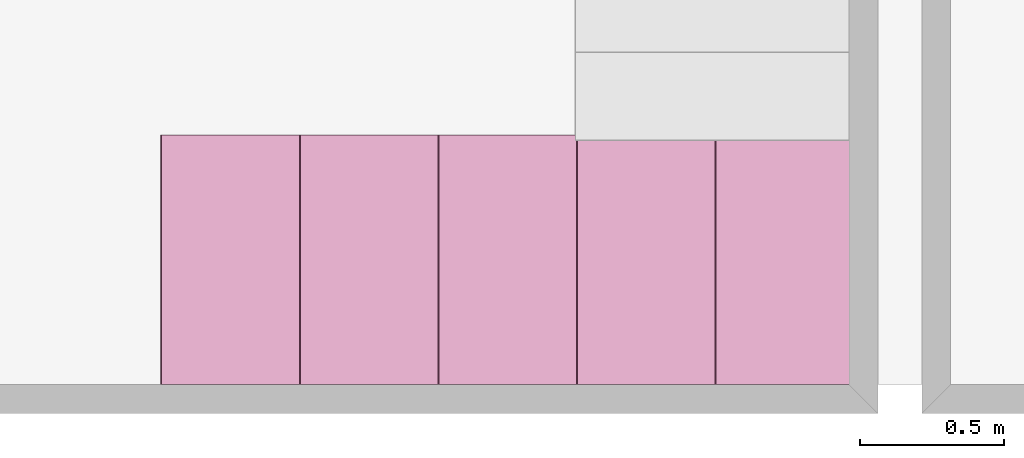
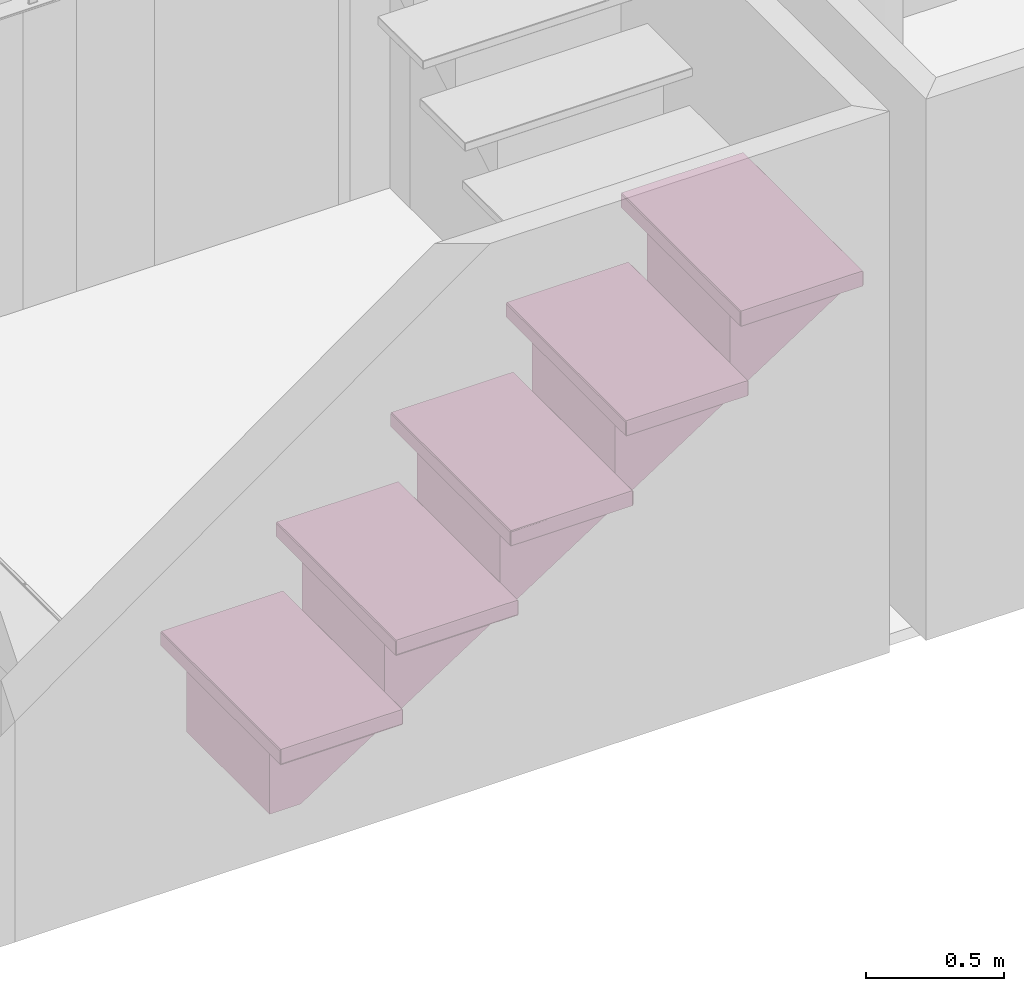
# One storey, part 3 of 9: 1 furnishing.
"""IFC2X3 building model written with IfcOpenShell, lengths in metres."""

from ifc_helpers import new_model, si_unit, frame, origin_with_axes, place, context, project, spatial, faceted_brep, type_object, element, save


model = new_model("IFC2X3")

# Units and contexts
model_context = context("Model", 3, precision=1e-05, world=origin_with_axes())
ifc_project = project(units=[si_unit("AREAUNIT", "SQUARE_METRE"), si_unit("LENGTHUNIT", "METRE")], contexts=[model_context])

# Site, building, storey, space
site_placement = place(None, origin_with_axes())
site = spatial("IfcSite", under=ifc_project, at=site_placement, Name="Site", CompositionType="ELEMENT")
building_placement = place(site_placement, origin_with_axes())
building = spatial("IfcBuilding", under=site, at=building_placement, Name="Building", CompositionType="ELEMENT")
storey_placement = place(building_placement, frame((0.0, 0.0, 0.0500004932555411), z_axis=(0.0, 0.0, 1.0), x_axis=(1.0, 0.0, 0.0)))
storey = spatial("IfcBuildingStorey", under=building, at=storey_placement, Name="Story 0", CompositionType="ELEMENT", Elevation=0.0499999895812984)
space_placement = place(storey_placement, frame((-2.12390536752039, -1.01893616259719, 0.0), z_axis=(0.0, 0.0, 1.0), x_axis=(1.0, 0.0, 0.0)))
space = spatial("IfcSpace", under=storey, at=space_placement, Name="005", CompositionType="ELEMENT", InteriorOrExteriorSpace="INTERNAL")

# Furnishing
furniture_type = type_object("IfcFurnitureType", Name="588ed74f-7506-4662-80ca-00d1935022b0")
furnishing_placement = place(space_placement, frame((-1.16721611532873, -2.90381907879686, 0.820211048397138), z_axis=(0.0, 0.0, 1.00000000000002), x_axis=(-1.00000000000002, 0.0, 0.0)))
element("IfcFurnishingElement", 1, at=furnishing_placement, inside=space, type_object=furniture_type, Name="STAIRS", ObjectType="STAIRS", context=model_context, shape_type="Brep", body=[
    faceted_brep([(1.2172, 0.4313, -0.4459), (1.2172, -0.4313, -0.4459), (1.2172, 0.4313, -0.504), (1.2172, -0.4313, -0.504), (1.2172, 0.4313, -0.504), (1.2172, -0.4313, -0.4459), (1.2138, -0.4329, -0.4459), (0.7064, -0.4329, -0.4459), (1.2138, -0.4329, -0.504), (0.7064, -0.4329, -0.504), (1.2138, -0.4329, -0.504), (0.7064, -0.4329, -0.4459), (0.7029, -0.4313, -0.4459), (0.7029, 0.4313, -0.4459), (0.7029, -0.4313, -0.504), (0.7029, 0.4313, -0.504), (0.7029, -0.4313, -0.504), (0.7029, 0.4313, -0.4459), (0.7064, 0.4329, -0.4459), (1.2138, 0.4329, -0.4459), (0.7064, 0.4329, -0.504), (1.2138, 0.4329, -0.504), (0.7064, 0.4329, -0.504), (1.2138, 0.4329, -0.4459), (1.2138, -0.4313, -0.5084), (0.7064, -0.4313, -0.5084), (1.2138, 0.4313, -0.5084), (0.7064, 0.4313, -0.5084), (1.2138, 0.4313, -0.5084), (0.7064, -0.4313, -0.5084), (1.2138, -0.4313, -0.4414), (1.2138, 0.4313, -0.4414), (0.7064, -0.4313, -0.4414), (0.7064, 0.4313, -0.4414), (0.7064, -0.4313, -0.4414), (1.2138, 0.4313, -0.4414), (1.2138, 0.4329, -0.504), (1.2172, 0.4313, -0.504), (1.2138, 0.4313, -0.5084), (1.2138, -0.4329, -0.504), (1.2138, -0.4313, -0.5084), (1.2172, -0.4313, -0.504), (0.7029, -0.4313, -0.504), (0.7064, -0.4313, -0.5084), (0.7064, -0.4329, -0.504), (0.7029, 0.4313, -0.504), (0.7064, 0.4329, -0.504), (0.7064, 0.4313, -0.5084), (1.2138, 0.4313, -0.4414), (1.2172, 0.4313, -0.4459), (1.2138, 0.4329, -0.4459), (1.2138, -0.4313, -0.4414), (1.2138, -0.4329, -0.4459), (1.2172, -0.4313, -0.4459), (0.7064, -0.4313, -0.4414), (0.7029, -0.4313, -0.4459), (0.7064, -0.4329, -0.4459), (0.7064, 0.4313, -0.4414), (0.7064, 0.4329, -0.4459), (0.7029, 0.4313, -0.4459), (1.2138, 0.4313, -0.5084), (1.2172, 0.4313, -0.504), (1.2138, -0.4313, -0.5084), (1.2172, -0.4313, -0.504), (1.2138, -0.4313, -0.5084), (1.2172, 0.4313, -0.504), (1.2138, -0.4329, -0.504), (1.2172, -0.4313, -0.504), (1.2138, -0.4329, -0.4459), (1.2172, -0.4313, -0.4459), (1.2138, -0.4329, -0.4459), (1.2172, -0.4313, -0.504), (1.2138, -0.4313, -0.4414), (1.2172, -0.4313, -0.4459), (1.2138, 0.4313, -0.4414), (1.2172, 0.4313, -0.4459), (1.2138, 0.4313, -0.4414), (1.2172, -0.4313, -0.4459), (1.2138, 0.4329, -0.4459), (1.2172, 0.4313, -0.4459), (1.2138, 0.4329, -0.504), (1.2172, 0.4313, -0.504), (1.2138, 0.4329, -0.504), (1.2172, 0.4313, -0.4459), (1.2138, -0.4313, -0.5084), (1.2138, -0.4329, -0.504), (0.7064, -0.4313, -0.5084), (0.7064, -0.4329, -0.504), (0.7064, -0.4313, -0.5084), (1.2138, -0.4329, -0.504), (0.7029, -0.4313, -0.504), (0.7064, -0.4329, -0.504), (0.7029, -0.4313, -0.4459), (0.7064, -0.4329, -0.4459), (0.7029, -0.4313, -0.4459), (0.7064, -0.4329, -0.504), (0.7064, -0.4313, -0.4414), (0.7064, -0.4329, -0.4459), (1.2138, -0.4313, -0.4414), (1.2138, -0.4329, -0.4459), (1.2138, -0.4313, -0.4414), (0.7064, -0.4329, -0.4459), (0.7064, -0.4313, -0.5084), (0.7029, -0.4313, -0.504), (0.7064, 0.4313, -0.5084), (0.7029, 0.4313, -0.504), (0.7064, 0.4313, -0.5084), (0.7029, -0.4313, -0.504), (0.7064, 0.4329, -0.504), (0.7029, 0.4313, -0.504), (0.7064, 0.4329, -0.4459), (0.7029, 0.4313, -0.4459), (0.7064, 0.4329, -0.4459), (0.7029, 0.4313, -0.504), (0.7064, 0.4313, -0.4414), (0.7029, 0.4313, -0.4459), (0.7064, -0.4313, -0.4414), (0.7029, -0.4313, -0.4459), (0.7064, -0.4313, -0.4414), (0.7029, 0.4313, -0.4459), (0.7064, 0.4313, -0.5084), (0.7064, 0.4329, -0.504), (1.2138, 0.4313, -0.5084), (1.2138, 0.4329, -0.504), (1.2138, 0.4313, -0.5084), (0.7064, 0.4329, -0.504), (1.2138, 0.4313, -0.4414), (1.2138, 0.4329, -0.4459), (0.7064, 0.4313, -0.4414), (0.7064, 0.4329, -0.4459), (0.7064, 0.4313, -0.4414), (1.2138, 0.4329, -0.4459), (0.7359, 0.4313, -0.1323), (0.7359, -0.4313, -0.1323), (0.7359, 0.4313, -0.1904), (0.7359, -0.4313, -0.1904), (0.7359, 0.4313, -0.1904), (0.7359, -0.4313, -0.1323), (0.7325, -0.4329, -0.1323), (0.2251, -0.4329, -0.1323), (0.7325, -0.4329, -0.1904), (0.2251, -0.4329, -0.1904), (0.7325, -0.4329, -0.1904), (0.2251, -0.4329, -0.1323), (0.2217, -0.4313, -0.1323), (0.2217, 0.4313, -0.1323), (0.2217, -0.4313, -0.1904), (0.2217, 0.4313, -0.1904), (0.2217, -0.4313, -0.1904), (0.2217, 0.4313, -0.1323), (0.2251, 0.4329, -0.1323), (0.7325, 0.4329, -0.1323), (0.2251, 0.4329, -0.1904), (0.7325, 0.4329, -0.1904), (0.2251, 0.4329, -0.1904), (0.7325, 0.4329, -0.1323), (0.7325, -0.4313, -0.1948), (0.2251, -0.4313, -0.1948), (0.7325, 0.4313, -0.1948), (0.2251, 0.4313, -0.1948), (0.7325, 0.4313, -0.1948), (0.2251, -0.4313, -0.1948), (0.7325, -0.4313, -0.1278), (0.7325, 0.4313, -0.1278), (0.2251, -0.4313, -0.1278), (0.2251, 0.4313, -0.1278), (0.2251, -0.4313, -0.1278), (0.7325, 0.4313, -0.1278), (0.7325, 0.4329, -0.1904), (0.7359, 0.4313, -0.1904), (0.7325, 0.4313, -0.1948), (0.7325, -0.4329, -0.1904), (0.7325, -0.4313, -0.1948), (0.7359, -0.4313, -0.1904), (0.2217, -0.4313, -0.1904), (0.2251, -0.4313, -0.1948), (0.2251, -0.4329, -0.1904), (0.2217, 0.4313, -0.1904), (0.2251, 0.4329, -0.1904), (0.2251, 0.4313, -0.1948), (0.7325, 0.4313, -0.1278), (0.7359, 0.4313, -0.1323), (0.7325, 0.4329, -0.1323), (0.7325, -0.4313, -0.1278), (0.7325, -0.4329, -0.1323), (0.7359, -0.4313, -0.1323), (0.2251, -0.4313, -0.1278), (0.2217, -0.4313, -0.1323), (0.2251, -0.4329, -0.1323), (0.2251, 0.4313, -0.1278), (0.2251, 0.4329, -0.1323), (0.2217, 0.4313, -0.1323), (0.7325, 0.4313, -0.1948), (0.7359, 0.4313, -0.1904), (0.7325, -0.4313, -0.1948), (0.7359, -0.4313, -0.1904), (0.7325, -0.4313, -0.1948), (0.7359, 0.4313, -0.1904), (0.7325, -0.4329, -0.1904), (0.7359, -0.4313, -0.1904), (0.7325, -0.4329, -0.1323), (0.7359, -0.4313, -0.1323), (0.7325, -0.4329, -0.1323), (0.7359, -0.4313, -0.1904), (0.7325, -0.4313, -0.1278), (0.7359, -0.4313, -0.1323), (0.7325, 0.4313, -0.1278), (0.7359, 0.4313, -0.1323), (0.7325, 0.4313, -0.1278), (0.7359, -0.4313, -0.1323), (0.7325, 0.4329, -0.1323), (0.7359, 0.4313, -0.1323), (0.7325, 0.4329, -0.1904), (0.7359, 0.4313, -0.1904), (0.7325, 0.4329, -0.1904), (0.7359, 0.4313, -0.1323), (0.7325, -0.4313, -0.1948), (0.7325, -0.4329, -0.1904), (0.2251, -0.4313, -0.1948), (0.2251, -0.4329, -0.1904), (0.2251, -0.4313, -0.1948), (0.7325, -0.4329, -0.1904), (0.2217, -0.4313, -0.1904), (0.2251, -0.4329, -0.1904), (0.2217, -0.4313, -0.1323), (0.2251, -0.4329, -0.1323), (0.2217, -0.4313, -0.1323), (0.2251, -0.4329, -0.1904), (0.2251, -0.4313, -0.1278), (0.2251, -0.4329, -0.1323), (0.7325, -0.4313, -0.1278), (0.7325, -0.4329, -0.1323), (0.7325, -0.4313, -0.1278), (0.2251, -0.4329, -0.1323), (0.2251, -0.4313, -0.1948), (0.2217, -0.4313, -0.1904), (0.2251, 0.4313, -0.1948), (0.2217, 0.4313, -0.1904), (0.2251, 0.4313, -0.1948), (0.2217, -0.4313, -0.1904), (0.2251, 0.4329, -0.1904), (0.2217, 0.4313, -0.1904), (0.2251, 0.4329, -0.1323), (0.2217, 0.4313, -0.1323), (0.2251, 0.4329, -0.1323), (0.2217, 0.4313, -0.1904), (0.2251, 0.4313, -0.1278), (0.2217, 0.4313, -0.1323), (0.2251, -0.4313, -0.1278), (0.2217, -0.4313, -0.1323), (0.2251, -0.4313, -0.1278), (0.2217, 0.4313, -0.1323), (0.2251, 0.4313, -0.1948), (0.2251, 0.4329, -0.1904), (0.7325, 0.4313, -0.1948), (0.7325, 0.4329, -0.1904), (0.7325, 0.4313, -0.1948), (0.2251, 0.4329, -0.1904), (0.7325, 0.4313, -0.1278), (0.7325, 0.4329, -0.1323), (0.2251, 0.4313, -0.1278), (0.2251, 0.4329, -0.1323), (0.2251, 0.4313, -0.1278), (0.7325, 0.4329, -0.1323), (0.257, 0.4313, 0.1834), (0.257, -0.4313, 0.1834), (0.257, 0.4313, 0.1253), (0.257, -0.4313, 0.1253), (0.257, 0.4313, 0.1253), (0.257, -0.4313, 0.1834), (0.2536, -0.4329, 0.1834), (-0.2538, -0.4329, 0.1834), (0.2536, -0.4329, 0.1253), (-0.2538, -0.4329, 0.1253), (0.2536, -0.4329, 0.1253), (-0.2538, -0.4329, 0.1834), (-0.2572, -0.4313, 0.1834), (-0.2572, 0.4313, 0.1833), (-0.2572, -0.4313, 0.1253), (-0.2572, 0.4313, 0.1253), (-0.2572, -0.4313, 0.1253), (-0.2572, 0.4313, 0.1833), (-0.2538, 0.4329, 0.1833), (0.2536, 0.4329, 0.1834), (-0.2538, 0.4329, 0.1253), (0.2536, 0.4329, 0.1253), (-0.2538, 0.4329, 0.1253), (0.2536, 0.4329, 0.1834), (0.2536, -0.4313, 0.1208), (-0.2538, -0.4313, 0.1208), (0.2536, 0.4313, 0.1208), (-0.2538, 0.4313, 0.1208), (0.2536, 0.4313, 0.1208), (-0.2538, -0.4313, 0.1208), (0.2536, -0.4313, 0.1878), (0.2536, 0.4313, 0.1878), (-0.2538, -0.4313, 0.1878), (-0.2538, 0.4313, 0.1878), (-0.2538, -0.4313, 0.1878), (0.2536, 0.4313, 0.1878), (0.2536, 0.4329, 0.1253), (0.257, 0.4313, 0.1253), (0.2536, 0.4313, 0.1208), (0.2536, -0.4329, 0.1253), (0.2536, -0.4313, 0.1208), (0.257, -0.4313, 0.1253), (-0.2572, -0.4313, 0.1253), (-0.2538, -0.4313, 0.1208), (-0.2538, -0.4329, 0.1253), (-0.2572, 0.4313, 0.1253), (-0.2538, 0.4329, 0.1253), (-0.2538, 0.4313, 0.1208), (0.2536, 0.4313, 0.1878), (0.257, 0.4313, 0.1834), (0.2536, 0.4329, 0.1834), (0.2536, -0.4313, 0.1878), (0.2536, -0.4329, 0.1834), (0.257, -0.4313, 0.1834), (-0.2538, -0.4313, 0.1878), (-0.2572, -0.4313, 0.1834), (-0.2538, -0.4329, 0.1834), (-0.2538, 0.4313, 0.1878), (-0.2538, 0.4329, 0.1833), (-0.2572, 0.4313, 0.1833), (0.2536, 0.4313, 0.1208), (0.257, 0.4313, 0.1253), (0.2536, -0.4313, 0.1208), (0.257, -0.4313, 0.1253), (0.2536, -0.4313, 0.1208), (0.257, 0.4313, 0.1253), (0.2536, -0.4329, 0.1253), (0.257, -0.4313, 0.1253), (0.2536, -0.4329, 0.1834), (0.257, -0.4313, 0.1834), (0.2536, -0.4329, 0.1834), (0.257, -0.4313, 0.1253), (0.2536, -0.4313, 0.1878), (0.257, -0.4313, 0.1834), (0.2536, 0.4313, 0.1878), (0.257, 0.4313, 0.1834), (0.2536, 0.4313, 0.1878), (0.257, -0.4313, 0.1834), (0.2536, 0.4329, 0.1834), (0.257, 0.4313, 0.1834), (0.2536, 0.4329, 0.1253), (0.257, 0.4313, 0.1253), (0.2536, 0.4329, 0.1253), (0.257, 0.4313, 0.1834), (0.2536, -0.4313, 0.1208), (0.2536, -0.4329, 0.1253), (-0.2538, -0.4313, 0.1208), (-0.2538, -0.4329, 0.1253), (-0.2538, -0.4313, 0.1208), (0.2536, -0.4329, 0.1253), (-0.2572, -0.4313, 0.1253), (-0.2538, -0.4329, 0.1253), (-0.2572, -0.4313, 0.1834), (-0.2538, -0.4329, 0.1834), (-0.2572, -0.4313, 0.1834), (-0.2538, -0.4329, 0.1253), (-0.2538, -0.4313, 0.1878), (-0.2538, -0.4329, 0.1834), (0.2536, -0.4313, 0.1878), (0.2536, -0.4329, 0.1834), (0.2536, -0.4313, 0.1878), (-0.2538, -0.4329, 0.1834), (-0.2538, -0.4313, 0.1208), (-0.2572, -0.4313, 0.1253), (-0.2538, 0.4313, 0.1208), (-0.2572, 0.4313, 0.1253), (-0.2538, 0.4313, 0.1208), (-0.2572, -0.4313, 0.1253), (-0.2538, 0.4329, 0.1253), (-0.2572, 0.4313, 0.1253), (-0.2538, 0.4329, 0.1833), (-0.2572, 0.4313, 0.1833), (-0.2538, 0.4329, 0.1833), (-0.2572, 0.4313, 0.1253), (-0.2538, 0.4313, 0.1878), (-0.2572, 0.4313, 0.1833), (-0.2538, -0.4313, 0.1878), (-0.2572, -0.4313, 0.1834), (-0.2538, -0.4313, 0.1878), (-0.2572, 0.4313, 0.1833), (-0.2538, 0.4313, 0.1208), (-0.2538, 0.4329, 0.1253), (0.2536, 0.4313, 0.1208), (0.2536, 0.4329, 0.1253), (0.2536, 0.4313, 0.1208), (-0.2538, 0.4329, 0.1253), (0.2536, 0.4313, 0.1878), (0.2536, 0.4329, 0.1834), (-0.2538, 0.4313, 0.1878), (-0.2538, 0.4329, 0.1833), (-0.2538, 0.4313, 0.1878), (0.2536, 0.4329, 0.1834), (-0.2238, 0.4313, 0.5), (-0.2238, -0.4313, 0.5), (-0.2238, 0.4313, 0.442), (-0.2238, -0.4313, 0.442), (-0.2238, 0.4313, 0.442), (-0.2238, -0.4313, 0.5), (-0.2273, -0.4329, 0.5), (-0.7347, -0.4329, 0.5), (-0.2273, -0.4329, 0.442), (-0.7347, -0.4329, 0.442), (-0.2273, -0.4329, 0.442), (-0.7347, -0.4329, 0.5), (-0.7381, -0.4313, 0.5), (-0.7381, 0.4313, 0.5), (-0.7381, -0.4313, 0.442), (-0.7381, 0.4313, 0.442), (-0.7381, -0.4313, 0.442), (-0.7381, 0.4313, 0.5), (-0.7347, 0.4329, 0.5), (-0.2273, 0.4329, 0.5), (-0.7347, 0.4329, 0.442), (-0.2273, 0.4329, 0.442), (-0.7347, 0.4329, 0.442), (-0.2273, 0.4329, 0.5), (-0.2273, -0.4313, 0.4375), (-0.7347, -0.4313, 0.4375), (-0.2273, 0.4313, 0.4375), (-0.7347, 0.4313, 0.4375), (-0.2273, 0.4313, 0.4375), (-0.7347, -0.4313, 0.4375), (-0.2273, -0.4313, 0.5045), (-0.2273, 0.4313, 0.5045), (-0.7347, -0.4313, 0.5045), (-0.7347, 0.4313, 0.5045), (-0.7347, -0.4313, 0.5045), (-0.2273, 0.4313, 0.5045), (-0.2273, 0.4329, 0.442), (-0.2238, 0.4313, 0.442), (-0.2273, 0.4313, 0.4375), (-0.2273, -0.4329, 0.442), (-0.2273, -0.4313, 0.4375), (-0.2238, -0.4313, 0.442), (-0.7381, -0.4313, 0.442), (-0.7347, -0.4313, 0.4375), (-0.7347, -0.4329, 0.442), (-0.7381, 0.4313, 0.442), (-0.7347, 0.4329, 0.442), (-0.7347, 0.4313, 0.4375), (-0.2273, 0.4313, 0.5045), (-0.2238, 0.4313, 0.5), (-0.2273, 0.4329, 0.5), (-0.2273, -0.4313, 0.5045), (-0.2273, -0.4329, 0.5), (-0.2238, -0.4313, 0.5), (-0.7347, -0.4313, 0.5045), (-0.7381, -0.4313, 0.5), (-0.7347, -0.4329, 0.5), (-0.7347, 0.4313, 0.5045), (-0.7347, 0.4329, 0.5), (-0.7381, 0.4313, 0.5), (-0.2273, 0.4313, 0.4375), (-0.2238, 0.4313, 0.442), (-0.2273, -0.4313, 0.4375), (-0.2238, -0.4313, 0.442), (-0.2273, -0.4313, 0.4375), (-0.2238, 0.4313, 0.442), (-0.2273, -0.4329, 0.442), (-0.2238, -0.4313, 0.442), (-0.2273, -0.4329, 0.5), (-0.2238, -0.4313, 0.5), (-0.2273, -0.4329, 0.5), (-0.2238, -0.4313, 0.442), (-0.2273, -0.4313, 0.5045), (-0.2238, -0.4313, 0.5), (-0.2273, 0.4313, 0.5045), (-0.2238, 0.4313, 0.5), (-0.2273, 0.4313, 0.5045), (-0.2238, -0.4313, 0.5), (-0.2273, 0.4329, 0.5), (-0.2238, 0.4313, 0.5), (-0.2273, 0.4329, 0.442), (-0.2238, 0.4313, 0.442), (-0.2273, 0.4329, 0.442), (-0.2238, 0.4313, 0.5), (-0.2273, -0.4313, 0.4375), (-0.2273, -0.4329, 0.442), (-0.7347, -0.4313, 0.4375), (-0.7347, -0.4329, 0.442), (-0.7347, -0.4313, 0.4375), (-0.2273, -0.4329, 0.442), (-0.7381, -0.4313, 0.442), (-0.7347, -0.4329, 0.442), (-0.7381, -0.4313, 0.5), (-0.7347, -0.4329, 0.5), (-0.7381, -0.4313, 0.5), (-0.7347, -0.4329, 0.442), (-0.7347, -0.4313, 0.5045), (-0.7347, -0.4329, 0.5), (-0.2273, -0.4313, 0.5045), (-0.2273, -0.4329, 0.5), (-0.2273, -0.4313, 0.5045), (-0.7347, -0.4329, 0.5), (-0.7347, -0.4313, 0.4375), (-0.7381, -0.4313, 0.442), (-0.7347, 0.4313, 0.4375), (-0.7381, 0.4313, 0.442), (-0.7347, 0.4313, 0.4375), (-0.7381, -0.4313, 0.442), (-0.7347, 0.4329, 0.442), (-0.7381, 0.4313, 0.442), (-0.7347, 0.4329, 0.5), (-0.7381, 0.4313, 0.5), (-0.7347, 0.4329, 0.5), (-0.7381, 0.4313, 0.442), (-0.7347, 0.4313, 0.5045), (-0.7381, 0.4313, 0.5), (-0.7347, -0.4313, 0.5045), (-0.7381, -0.4313, 0.5), (-0.7347, -0.4313, 0.5045), (-0.7381, 0.4313, 0.5), (-0.7347, 0.4313, 0.4375), (-0.7347, 0.4329, 0.442), (-0.2273, 0.4313, 0.4375), (-0.2273, 0.4329, 0.442), (-0.2273, 0.4313, 0.4375), (-0.7347, 0.4329, 0.442), (-0.2273, 0.4313, 0.5045), (-0.2273, 0.4329, 0.5), (-0.7347, 0.4313, 0.5045), (-0.7347, 0.4329, 0.5), (-0.7347, 0.4313, 0.5045), (-0.2273, 0.4329, 0.5), (-0.7029, 0.4313, 0.8157), (-0.7029, -0.4313, 0.8157), (-0.7029, 0.4313, 0.7577), (-0.7029, -0.4313, 0.7577), (-0.7029, 0.4313, 0.7577), (-0.7029, -0.4313, 0.8157), (-0.7064, -0.4329, 0.8157), (-1.2138, -0.4329, 0.8157), (-0.7064, -0.4329, 0.7577), (-1.2138, -0.4329, 0.7577), (-0.7064, -0.4329, 0.7577), (-1.2138, -0.4329, 0.8157), (-1.2172, -0.4313, 0.8157), (-1.2172, 0.4313, 0.8157), (-1.2172, -0.4313, 0.7577), (-1.2172, 0.4313, 0.7577), (-1.2172, -0.4313, 0.7577), (-1.2172, 0.4313, 0.8157), (-1.2138, 0.4329, 0.8157), (-0.7064, 0.4329, 0.8157), (-1.2138, 0.4329, 0.7577), (-0.7064, 0.4329, 0.7577), (-1.2138, 0.4329, 0.7577), (-0.7064, 0.4329, 0.8157), (-0.7064, -0.4313, 0.7532), (-1.2138, -0.4313, 0.7532), (-0.7064, 0.4313, 0.7532), (-1.2138, 0.4313, 0.7532), (-0.7064, 0.4313, 0.7532), (-1.2138, -0.4313, 0.7532), (-0.7064, -0.4313, 0.8202), (-0.7064, 0.4313, 0.8202), (-1.2138, -0.4313, 0.8202), (-1.2138, 0.4313, 0.8202), (-1.2138, -0.4313, 0.8202), (-0.7064, 0.4313, 0.8202), (-0.7064, 0.4329, 0.7577), (-0.7029, 0.4313, 0.7577), (-0.7064, 0.4313, 0.7532), (-0.7064, -0.4329, 0.7577), (-0.7064, -0.4313, 0.7532), (-0.7029, -0.4313, 0.7577), (-1.2172, -0.4313, 0.7577), (-1.2138, -0.4313, 0.7532), (-1.2138, -0.4329, 0.7577), (-1.2172, 0.4313, 0.7577), (-1.2138, 0.4329, 0.7577), (-1.2138, 0.4313, 0.7532), (-0.7064, 0.4313, 0.8202), (-0.7029, 0.4313, 0.8157), (-0.7064, 0.4329, 0.8157), (-0.7064, -0.4313, 0.8202), (-0.7064, -0.4329, 0.8157), (-0.7029, -0.4313, 0.8157), (-1.2138, -0.4313, 0.8202), (-1.2172, -0.4313, 0.8157), (-1.2138, -0.4329, 0.8157), (-1.2138, 0.4313, 0.8202), (-1.2138, 0.4329, 0.8157), (-1.2172, 0.4313, 0.8157), (-0.7064, 0.4313, 0.7532), (-0.7029, 0.4313, 0.7577), (-0.7064, -0.4313, 0.7532), (-0.7029, -0.4313, 0.7577), (-0.7064, -0.4313, 0.7532), (-0.7029, 0.4313, 0.7577), (-0.7064, -0.4329, 0.7577), (-0.7029, -0.4313, 0.7577), (-0.7064, -0.4329, 0.8157), (-0.7029, -0.4313, 0.8157), (-0.7064, -0.4329, 0.8157), (-0.7029, -0.4313, 0.7577), (-0.7064, -0.4313, 0.8202), (-0.7029, -0.4313, 0.8157), (-0.7064, 0.4313, 0.8202), (-0.7029, 0.4313, 0.8157), (-0.7064, 0.4313, 0.8202), (-0.7029, -0.4313, 0.8157), (-0.7064, 0.4329, 0.8157), (-0.7029, 0.4313, 0.8157), (-0.7064, 0.4329, 0.7577), (-0.7029, 0.4313, 0.7577), (-0.7064, 0.4329, 0.7577), (-0.7029, 0.4313, 0.8157), (-0.7064, -0.4313, 0.7532), (-0.7064, -0.4329, 0.7577), (-1.2138, -0.4313, 0.7532), (-1.2138, -0.4329, 0.7577), (-1.2138, -0.4313, 0.7532), (-0.7064, -0.4329, 0.7577), (-1.2172, -0.4313, 0.7577), (-1.2138, -0.4329, 0.7577), (-1.2172, -0.4313, 0.8157), (-1.2138, -0.4329, 0.8157), (-1.2172, -0.4313, 0.8157), (-1.2138, -0.4329, 0.7577), (-1.2138, -0.4313, 0.8202), (-1.2138, -0.4329, 0.8157), (-0.7064, -0.4313, 0.8202), (-0.7064, -0.4329, 0.8157), (-0.7064, -0.4313, 0.8202), (-1.2138, -0.4329, 0.8157), (-1.2138, -0.4313, 0.7532), (-1.2172, -0.4313, 0.7577), (-1.2138, 0.4313, 0.7532), (-1.2172, 0.4313, 0.7577), (-1.2138, 0.4313, 0.7532), (-1.2172, -0.4313, 0.7577), (-1.2138, 0.4329, 0.7577), (-1.2172, 0.4313, 0.7577), (-1.2138, 0.4329, 0.8157), (-1.2172, 0.4313, 0.8157), (-1.2138, 0.4329, 0.8157), (-1.2172, 0.4313, 0.7577), (-1.2138, 0.4313, 0.8202), (-1.2172, 0.4313, 0.8157), (-1.2138, -0.4313, 0.8202), (-1.2172, -0.4313, 0.8157), (-1.2138, -0.4313, 0.8202), (-1.2172, 0.4313, 0.8157), (-1.2138, 0.4313, 0.7532), (-1.2138, 0.4329, 0.7577), (-0.7064, 0.4313, 0.7532), (-0.7064, 0.4329, 0.7577), (-0.7064, 0.4313, 0.7532), (-1.2138, 0.4329, 0.7577), (-0.7064, 0.4313, 0.8202), (-0.7064, 0.4329, 0.8157), (-1.2138, 0.4313, 0.8202), (-1.2138, 0.4329, 0.8157), (-1.2138, 0.4313, 0.8202), (-0.7064, 0.4329, 0.8157), (1.1817, 0.2581, -0.5081), (1.1817, 0.2581, -0.8202), (1.1817, 0.2955, -0.5081), (1.1817, 0.2955, -0.8202), (1.1817, 0.2955, -0.5081), (1.1817, 0.2581, -0.8202), (0.7017, 0.2581, -0.5081), (1.1817, 0.2581, -0.5081), (0.7017, 0.2955, -0.5081), (1.1817, 0.2955, -0.5081), (0.7017, 0.2955, -0.5081), (1.1817, 0.2581, -0.5081), (0.7017, 0.2581, -0.1932), (0.7017, 0.2581, -0.5081), (0.7017, 0.2955, -0.1932), (0.7017, 0.2955, -0.5081), (0.7017, 0.2955, -0.1932), (0.7017, 0.2581, -0.5081), (0.2217, 0.2581, -0.1932), (0.7017, 0.2581, -0.1932), (0.2217, 0.2955, -0.1932), (0.7017, 0.2955, -0.1932), (0.2217, 0.2955, -0.1932), (0.7017, 0.2581, -0.1932), (0.2217, 0.2581, 0.1216), (0.2217, 0.2581, -0.1932), (0.2217, 0.2955, 0.1216), (0.2217, 0.2955, -0.1932), (0.2217, 0.2955, 0.1216), (0.2217, 0.2581, -0.1932), (-0.2582, 0.2581, 0.1216), (0.2217, 0.2581, 0.1216), (-0.2582, 0.2955, 0.1216), (0.2217, 0.2955, 0.1216), (-0.2582, 0.2955, 0.1216), (0.2217, 0.2581, 0.1216), (-0.2582, 0.2581, 0.4365), (-0.2582, 0.2581, 0.1216), (-0.2582, 0.2955, 0.4365), (-0.2582, 0.2955, 0.1216), (-0.2582, 0.2955, 0.4365), (-0.2582, 0.2581, 0.1216), (-0.7382, 0.2581, 0.4365), (-0.2582, 0.2581, 0.4365), (-0.7382, 0.2955, 0.4365), (-0.2582, 0.2955, 0.4365), (-0.7382, 0.2955, 0.4365), (-0.2582, 0.2581, 0.4365), (-0.7382, 0.2581, 0.7514), (-0.7382, 0.2581, 0.4365), (-0.7382, 0.2955, 0.7514), (-0.7382, 0.2955, 0.4365), (-0.7382, 0.2955, 0.7514), (-0.7382, 0.2581, 0.4365), (-1.2011, 0.2581, 0.7514), (-0.7382, 0.2581, 0.7514), (-1.2011, 0.2955, 0.7514), (-0.7382, 0.2955, 0.7514), (-1.2011, 0.2955, 0.7514), (-0.7382, 0.2581, 0.7514), (1.1817, -0.3038, -0.5081), (1.1817, -0.3038, -0.8202), (1.1817, -0.2664, -0.5081), (1.1817, -0.2664, -0.8202), (1.1817, -0.2664, -0.5081), (1.1817, -0.3038, -0.8202), (0.7017, -0.3038, -0.5081), (1.1817, -0.3038, -0.5081), (0.7017, -0.2664, -0.5081), (1.1817, -0.2664, -0.5081), (0.7017, -0.2664, -0.5081), (1.1817, -0.3038, -0.5081), (0.7017, -0.3038, -0.1932), (0.7017, -0.3038, -0.5081), (0.7017, -0.2664, -0.1932), (0.7017, -0.2664, -0.5081), (0.7017, -0.2664, -0.1932), (0.7017, -0.3038, -0.5081), (0.2217, -0.3038, -0.1932), (0.7017, -0.3038, -0.1932), (0.2217, -0.2664, -0.1932), (0.7017, -0.2664, -0.1932), (0.2217, -0.2664, -0.1932), (0.7017, -0.3038, -0.1932), (0.2217, -0.3038, 0.1216), (0.2217, -0.3038, -0.1932), (0.2217, -0.2664, 0.1216), (0.2217, -0.2664, -0.1932), (0.2217, -0.2664, 0.1216), (0.2217, -0.3038, -0.1932), (-0.2582, -0.3038, 0.1216), (0.2217, -0.3038, 0.1216), (-0.2582, -0.2664, 0.1216), (0.2217, -0.2664, 0.1216), (-0.2582, -0.2664, 0.1216), (0.2217, -0.3038, 0.1216), (-0.2582, -0.3038, 0.4365), (-0.2582, -0.3038, 0.1216), (-0.2582, -0.2664, 0.4365), (-0.2582, -0.2664, 0.1216), (-0.2582, -0.2664, 0.4365), (-0.2582, -0.3038, 0.1216), (-0.7382, -0.3038, 0.4365), (-0.2582, -0.3038, 0.4365), (-0.7382, -0.2664, 0.4365), (-0.2582, -0.2664, 0.4365), (-0.7382, -0.2664, 0.4365), (-0.2582, -0.3038, 0.4365), (-0.7382, -0.3038, 0.7514), (-0.7382, -0.3038, 0.4365), (-0.7382, -0.2664, 0.7514), (-0.7382, -0.2664, 0.4365), (-0.7382, -0.2664, 0.7514), (-0.7382, -0.3038, 0.4365), (-1.2011, -0.3038, 0.7514), (-0.7382, -0.3038, 0.7514), (-1.2011, -0.2664, 0.7514), (-0.7382, -0.2664, 0.7514), (-1.2011, -0.2664, 0.7514), (-0.7382, -0.3038, 0.7514), (1.0527, 0.2955, -0.8202), (1.0527, 0.2581, -0.8202), (-1.2011, 0.2955, 0.646), (-1.2011, 0.2581, 0.646), (-1.2011, 0.2955, 0.646), (1.0527, 0.2581, -0.8202), (1.0527, -0.2664, -0.8202), (1.0527, -0.3038, -0.8202), (-1.2011, -0.2664, 0.646), (-1.2011, -0.3038, 0.646), (-1.2011, -0.2664, 0.646), (1.0527, -0.3038, -0.8202), (1.0527, 0.2955, -0.8202), (1.1817, 0.2955, -0.8202), (1.0527, 0.2581, -0.8202), (1.1817, 0.2581, -0.8202), (1.0527, 0.2581, -0.8202), (1.1817, 0.2955, -0.8202), (-1.2011, 0.2955, 0.646), (-1.2011, 0.2581, 0.646), (-1.2011, 0.2955, 0.7514), (-1.2011, 0.2581, 0.7514), (-1.2011, 0.2955, 0.7514), (-1.2011, 0.2581, 0.646), (1.0527, -0.3038, -0.8202), (1.0527, -0.2664, -0.8202), (1.1817, -0.3038, -0.8202), (1.1817, -0.2664, -0.8202), (1.1817, -0.3038, -0.8202), (1.0527, -0.2664, -0.8202), (-1.2011, -0.2664, 0.646), (-1.2011, -0.3038, 0.646), (-1.2011, -0.2664, 0.7514), (-1.2011, -0.3038, 0.7514), (-1.2011, -0.2664, 0.7514), (-1.2011, -0.3038, 0.646), (-0.7382, 0.2581, 0.7514), (-1.2011, 0.2581, 0.7514), (-0.7382, -0.2664, 0.7514), (-1.2011, -0.2664, 0.7514), (-0.7382, -0.2664, 0.7514), (-1.2011, 0.2581, 0.7514), (-0.7382, 0.2581, 0.4365), (-0.7382, 0.2581, 0.7514), (-0.7382, -0.2664, 0.4365), (-0.7382, -0.2664, 0.7514), (-0.7382, -0.2664, 0.4365), (-0.7382, 0.2581, 0.7514), (-0.2582, 0.2581, 0.4365), (-0.7382, 0.2581, 0.4365), (-0.2582, -0.2664, 0.4365), (-0.7382, -0.2664, 0.4365), (-0.2582, -0.2664, 0.4365), (-0.7382, 0.2581, 0.4365), (-0.2582, 0.2581, 0.1216), (-0.2582, 0.2581, 0.4365), (-0.2582, -0.2664, 0.1216), (-0.2582, -0.2664, 0.4365), (-0.2582, -0.2664, 0.1216), (-0.2582, 0.2581, 0.4365), (0.2217, 0.2581, 0.1216), (-0.2582, 0.2581, 0.1216), (0.2217, -0.2664, 0.1216), (-0.2582, -0.2664, 0.1216), (0.2217, -0.2664, 0.1216), (-0.2582, 0.2581, 0.1216), (0.2217, 0.2581, -0.1932), (0.2217, 0.2581, 0.1216), (0.2217, -0.2664, -0.1932), (0.2217, -0.2664, 0.1216), (0.2217, -0.2664, -0.1932), (0.2217, 0.2581, 0.1216), (0.7017, 0.2581, -0.1932), (0.2217, 0.2581, -0.1932), (0.7017, -0.2664, -0.1932), (0.2217, -0.2664, -0.1932), (0.7017, -0.2664, -0.1932), (0.2217, 0.2581, -0.1932), (0.7017, 0.2581, -0.5081), (0.7017, 0.2581, -0.1932), (0.7017, -0.2664, -0.5081), (0.7017, -0.2664, -0.1932), (0.7017, -0.2664, -0.5081), (0.7017, 0.2581, -0.1932), (1.1817, 0.2581, -0.5081), (0.7017, 0.2581, -0.5081), (1.1817, -0.2664, -0.5081), (0.7017, -0.2664, -0.5081), (1.1817, -0.2664, -0.5081), (0.7017, 0.2581, -0.5081), (1.1817, 0.2581, -0.8202), (1.1817, 0.2581, -0.5081), (1.1817, -0.2664, -0.8202), (1.1817, -0.2664, -0.5081), (1.1817, -0.2664, -0.8202), (1.1817, 0.2581, -0.5081), (1.0527, -0.2664, -0.8202), (1.0527, 0.2581, -0.8202), (1.1817, -0.2664, -0.8202), (1.1817, 0.2581, -0.8202), (1.1817, -0.2664, -0.8202), (1.0527, 0.2581, -0.8202), (-1.2011, 0.2581, 0.646), (1.0527, 0.2581, -0.8202), (-1.2011, -0.2664, 0.646), (1.0527, -0.2664, -0.8202), (-1.2011, -0.2664, 0.646), (1.0527, 0.2581, -0.8202), (-1.2011, -0.3038, 0.7514), (-1.2011, -0.3038, 0.646), (-0.7382, -0.3038, 0.7514), (-0.7382, -0.3038, 0.7514), (-1.2011, -0.3038, 0.646), (-0.7382, -0.3038, 0.4365), (-0.2582, -0.3038, 0.4365), (-0.7382, -0.3038, 0.4365), (-0.2582, -0.3038, 0.1216), (-0.7382, -0.3038, 0.4365), (-1.2011, -0.3038, 0.646), (-0.2582, -0.3038, 0.1216), (0.2217, -0.3038, 0.1216), (-0.2582, -0.3038, 0.1216), (0.2217, -0.3038, -0.1932), (0.7017, -0.3038, -0.1932), (0.2217, -0.3038, -0.1932), (0.7017, -0.3038, -0.5081), (0.2217, -0.3038, -0.1932), (-0.2582, -0.3038, 0.1216), (0.7017, -0.3038, -0.5081), (-0.2582, -0.3038, 0.1216), (-1.2011, -0.3038, 0.646), (0.7017, -0.3038, -0.5081), (1.1817, -0.3038, -0.5081), (0.7017, -0.3038, -0.5081), (1.1817, -0.3038, -0.8202), (0.7017, -0.3038, -0.5081), (-1.2011, -0.3038, 0.646), (1.1817, -0.3038, -0.8202), (1.1817, -0.3038, -0.8202), (-1.2011, -0.3038, 0.646), (1.0527, -0.3038, -0.8202), (1.1817, 0.2955, -0.8202), (1.0527, 0.2955, -0.8202), (1.1817, 0.2955, -0.5081), (1.1817, 0.2955, -0.5081), (1.0527, 0.2955, -0.8202), (0.7017, 0.2955, -0.5081), (0.7017, 0.2955, -0.1932), (0.7017, 0.2955, -0.5081), (0.2217, 0.2955, -0.1932), (0.7017, 0.2955, -0.5081), (1.0527, 0.2955, -0.8202), (0.2217, 0.2955, -0.1932), (0.2217, 0.2955, 0.1216), (0.2217, 0.2955, -0.1932), (-0.2582, 0.2955, 0.1216), (0.2217, 0.2955, -0.1932), (1.0527, 0.2955, -0.8202), (-0.2582, 0.2955, 0.1216), (-0.2582, 0.2955, 0.4365), (-0.2582, 0.2955, 0.1216), (-0.7382, 0.2955, 0.4365), (-0.2582, 0.2955, 0.1216), (1.0527, 0.2955, -0.8202), (-0.7382, 0.2955, 0.4365), (-0.7382, 0.2955, 0.7514), (-0.7382, 0.2955, 0.4365), (-1.2011, 0.2955, 0.7514), (-0.7382, 0.2955, 0.4365), (1.0527, 0.2955, -0.8202), (-1.2011, 0.2955, 0.7514), (-1.2011, 0.2955, 0.7514), (1.0527, 0.2955, -0.8202), (-1.2011, 0.2955, 0.646), (-1.2011, -0.2664, 0.7514), (-1.2011, 0.2581, 0.7514), (-1.2011, -0.2664, 0.646), (-1.2011, 0.2581, 0.646), (-1.2011, -0.2664, 0.646), (-1.2011, 0.2581, 0.7514)], [[[0, 1, 2]], [[3, 4, 5]], [[6, 7, 8]], [[9, 10, 11]], [[12, 13, 14]], [[15, 16, 17]], [[18, 19, 20]], [[21, 22, 23]], [[24, 25, 26]], [[27, 28, 29]], [[30, 31, 32]], [[33, 34, 35]], [[36, 37, 38]], [[39, 40, 41]], [[42, 43, 44]], [[45, 46, 47]], [[48, 49, 50]], [[51, 52, 53]], [[54, 55, 56]], [[57, 58, 59]], [[60, 61, 62]], [[63, 64, 65]], [[66, 67, 68]], [[69, 70, 71]], [[72, 73, 74]], [[75, 76, 77]], [[78, 79, 80]], [[81, 82, 83]], [[84, 85, 86]], [[87, 88, 89]], [[90, 91, 92]], [[93, 94, 95]], [[96, 97, 98]], [[99, 100, 101]], [[102, 103, 104]], [[105, 106, 107]], [[108, 109, 110]], [[111, 112, 113]], [[114, 115, 116]], [[117, 118, 119]], [[120, 121, 122]], [[123, 124, 125]], [[126, 127, 128]], [[129, 130, 131]], [[132, 133, 134]], [[135, 136, 137]], [[138, 139, 140]], [[141, 142, 143]], [[144, 145, 146]], [[147, 148, 149]], [[150, 151, 152]], [[153, 154, 155]], [[156, 157, 158]], [[159, 160, 161]], [[162, 163, 164]], [[165, 166, 167]], [[168, 169, 170]], [[171, 172, 173]], [[174, 175, 176]], [[177, 178, 179]], [[180, 181, 182]], [[183, 184, 185]], [[186, 187, 188]], [[189, 190, 191]], [[192, 193, 194]], [[195, 196, 197]], [[198, 199, 200]], [[201, 202, 203]], [[204, 205, 206]], [[207, 208, 209]], [[210, 211, 212]], [[213, 214, 215]], [[216, 217, 218]], [[219, 220, 221]], [[222, 223, 224]], [[225, 226, 227]], [[228, 229, 230]], [[231, 232, 233]], [[234, 235, 236]], [[237, 238, 239]], [[240, 241, 242]], [[243, 244, 245]], [[246, 247, 248]], [[249, 250, 251]], [[252, 253, 254]], [[255, 256, 257]], [[258, 259, 260]], [[261, 262, 263]], [[264, 265, 266]], [[267, 268, 269]], [[270, 271, 272]], [[273, 274, 275]], [[276, 277, 278]], [[279, 280, 281]], [[282, 283, 284]], [[285, 286, 287]], [[288, 289, 290]], [[291, 292, 293]], [[294, 295, 296]], [[297, 298, 299]], [[300, 301, 302]], [[303, 304, 305]], [[306, 307, 308]], [[309, 310, 311]], [[312, 313, 314]], [[315, 316, 317]], [[318, 319, 320]], [[321, 322, 323]], [[324, 325, 326]], [[327, 328, 329]], [[330, 331, 332]], [[333, 334, 335]], [[336, 337, 338]], [[339, 340, 341]], [[342, 343, 344]], [[345, 346, 347]], [[348, 349, 350]], [[351, 352, 353]], [[354, 355, 356]], [[357, 358, 359]], [[360, 361, 362]], [[363, 364, 365]], [[366, 367, 368]], [[369, 370, 371]], [[372, 373, 374]], [[375, 376, 377]], [[378, 379, 380]], [[381, 382, 383]], [[384, 385, 386]], [[387, 388, 389]], [[390, 391, 392]], [[393, 394, 395]], [[396, 397, 398]], [[399, 400, 401]], [[402, 403, 404]], [[405, 406, 407]], [[408, 409, 410]], [[411, 412, 413]], [[414, 415, 416]], [[417, 418, 419]], [[420, 421, 422]], [[423, 424, 425]], [[426, 427, 428]], [[429, 430, 431]], [[432, 433, 434]], [[435, 436, 437]], [[438, 439, 440]], [[441, 442, 443]], [[444, 445, 446]], [[447, 448, 449]], [[450, 451, 452]], [[453, 454, 455]], [[456, 457, 458]], [[459, 460, 461]], [[462, 463, 464]], [[465, 466, 467]], [[468, 469, 470]], [[471, 472, 473]], [[474, 475, 476]], [[477, 478, 479]], [[480, 481, 482]], [[483, 484, 485]], [[486, 487, 488]], [[489, 490, 491]], [[492, 493, 494]], [[495, 496, 497]], [[498, 499, 500]], [[501, 502, 503]], [[504, 505, 506]], [[507, 508, 509]], [[510, 511, 512]], [[513, 514, 515]], [[516, 517, 518]], [[519, 520, 521]], [[522, 523, 524]], [[525, 526, 527]], [[528, 529, 530]], [[531, 532, 533]], [[534, 535, 536]], [[537, 538, 539]], [[540, 541, 542]], [[543, 544, 545]], [[546, 547, 548]], [[549, 550, 551]], [[552, 553, 554]], [[555, 556, 557]], [[558, 559, 560]], [[561, 562, 563]], [[564, 565, 566]], [[567, 568, 569]], [[570, 571, 572]], [[573, 574, 575]], [[576, 577, 578]], [[579, 580, 581]], [[582, 583, 584]], [[585, 586, 587]], [[588, 589, 590]], [[591, 592, 593]], [[594, 595, 596]], [[597, 598, 599]], [[600, 601, 602]], [[603, 604, 605]], [[606, 607, 608]], [[609, 610, 611]], [[612, 613, 614]], [[615, 616, 617]], [[618, 619, 620]], [[621, 622, 623]], [[624, 625, 626]], [[627, 628, 629]], [[630, 631, 632]], [[633, 634, 635]], [[636, 637, 638]], [[639, 640, 641]], [[642, 643, 644]], [[645, 646, 647]], [[648, 649, 650]], [[651, 652, 653]], [[654, 655, 656]], [[657, 658, 659]], [[660, 661, 662]], [[663, 664, 665]], [[666, 667, 668]], [[669, 670, 671]], [[672, 673, 674]], [[675, 676, 677]], [[678, 679, 680]], [[681, 682, 683]], [[684, 685, 686]], [[687, 688, 689]], [[690, 691, 692]], [[693, 694, 695]], [[696, 697, 698]], [[699, 700, 701]], [[702, 703, 704]], [[705, 706, 707]], [[708, 709, 710]], [[711, 712, 713]], [[714, 715, 716]], [[717, 718, 719]], [[720, 721, 722]], [[723, 724, 725]], [[726, 727, 728]], [[729, 730, 731]], [[732, 733, 734]], [[735, 736, 737]], [[738, 739, 740]], [[741, 742, 743]], [[744, 745, 746]], [[747, 748, 749]], [[750, 751, 752]], [[753, 754, 755]], [[756, 757, 758]], [[759, 760, 761]], [[762, 763, 764]], [[765, 766, 767]], [[768, 769, 770]], [[771, 772, 773]], [[774, 775, 776]], [[777, 778, 779]], [[780, 781, 782]], [[783, 784, 785]], [[786, 787, 788]], [[789, 790, 791]], [[792, 793, 794]], [[795, 796, 797]], [[798, 799, 800]], [[801, 802, 803]], [[804, 805, 806]], [[807, 808, 809]], [[810, 811, 812]], [[813, 814, 815]], [[816, 817, 818]], [[819, 820, 821]], [[822, 823, 824]], [[825, 826, 827]], [[828, 829, 830]], [[831, 832, 833]], [[834, 835, 836]], [[837, 838, 839]], [[840, 841, 842]], [[843, 844, 845]], [[846, 847, 848]], [[849, 850, 851]], [[852, 853, 854]], [[855, 856, 857]], [[858, 859, 860]], [[861, 862, 863]], [[864, 865, 866]], [[867, 868, 869]], [[870, 871, 872]], [[873, 874, 875]], [[876, 877, 878]], [[879, 880, 881]], [[882, 883, 884]], [[885, 886, 887]], [[888, 889, 890]], [[891, 892, 893]], [[894, 895, 896]], [[897, 898, 899]], [[900, 901, 902]], [[903, 904, 905]], [[906, 907, 908]], [[909, 910, 911]], [[912, 913, 914]], [[915, 916, 917]], [[918, 919, 920]], [[921, 922, 923]], [[924, 925, 926]], [[927, 928, 929]], [[930, 931, 932]], [[933, 934, 935]], [[936, 937, 938]], [[939, 940, 941]], [[942, 943, 944]], [[945, 946, 947]], [[948, 949, 950]], [[951, 952, 953]], [[954, 955, 956]], [[957, 958, 959]]]),
])

save(model, "model.ifc")
